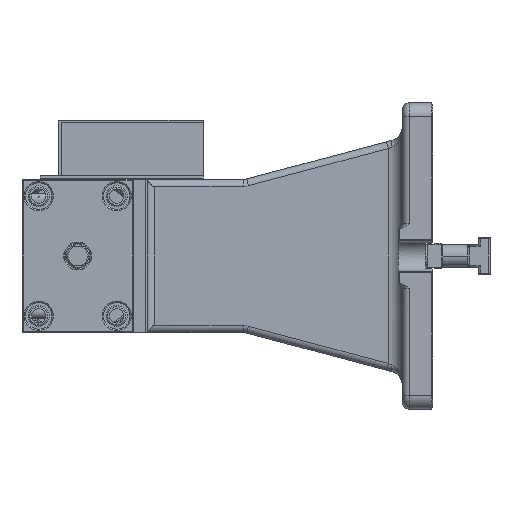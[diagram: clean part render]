
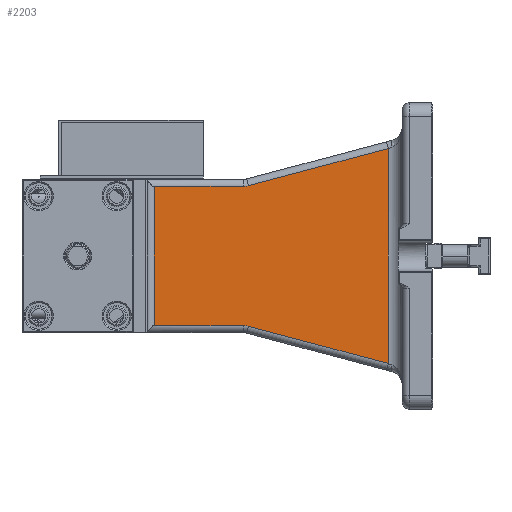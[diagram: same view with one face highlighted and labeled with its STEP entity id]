
A CAD part, left-side view. The second image highlights one B-rep face of the part: STEP entity #2203.
In plain terms, the highlighted planar face has unit normal (-1, 0, 0).
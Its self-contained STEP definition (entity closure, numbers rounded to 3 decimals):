
#36 = CIRCLE ( 'NONE', #11237, 15. ) ;
#174 = EDGE_CURVE ( 'NONE', #525, #3892, #3361, .T. ) ;
#310 = EDGE_CURVE ( 'NONE', #14118, #3107, #7535, .T. ) ;
#525 = VERTEX_POINT ( 'NONE', #10171 ) ;
#680 = VERTEX_POINT ( 'NONE', #9593 ) ;
#838 = DIRECTION ( 'NONE',  ( 0., 0.707, -0.707 ) ) ;
#1432 = DIRECTION ( 'NONE',  ( 1., 0., 0. ) ) ;
#1764 = CARTESIAN_POINT ( 'NONE',  ( 40., -55., -50. ) ) ;
#2004 = CARTESIAN_POINT ( 'NONE',  ( 40., -49., 50. ) ) ;
#2203 = ADVANCED_FACE ( 'NONE', ( #9124 ), #10260, .F. ) ;
#2260 = VECTOR ( 'NONE', #8328, 1000. ) ;
#2700 = CARTESIAN_POINT ( 'NONE',  ( 40., -224.283, -77.513 ) ) ;
#3107 = VERTEX_POINT ( 'NONE', #4653 ) ;
#3146 = ORIENTED_EDGE ( 'NONE', *, *, #11944, .T. ) ;
#3215 = VERTEX_POINT ( 'NONE', #11462 ) ;
#3256 = LINE ( 'NONE', #14517, #7256 ) ;
#3333 = DIRECTION ( 'NONE',  ( 0., -1., 0. ) ) ;
#3361 = LINE ( 'NONE', #7182, #2260 ) ;
#3402 = AXIS2_PLACEMENT_3D ( 'NONE', #4236, #6430, #11721 ) ;
#3541 = CARTESIAN_POINT ( 'NONE',  ( 40., -22., -82. ) ) ;
#3803 = CARTESIAN_POINT ( 'NONE',  ( 40., -14.971, 21.943 ) ) ;
#3892 = VERTEX_POINT ( 'NONE', #15532 ) ;
#4236 = CARTESIAN_POINT ( 'NONE',  ( 40., -50., -110. ) ) ;
#4653 = CARTESIAN_POINT ( 'NONE',  ( 40., -122.544, 50.502 ) ) ;
#4663 = ORIENTED_EDGE ( 'NONE', *, *, #310, .T. ) ;
#4668 = EDGE_CURVE ( 'NONE', #3107, #3215, #36, .T. ) ;
#4707 = DIRECTION ( 'NONE',  ( 0., 1., 0. ) ) ;
#4725 = ORIENTED_EDGE ( 'NONE', *, *, #4668, .T. ) ;
#4758 = VECTOR ( 'NONE', #838, 1000. ) ;
#4766 = VECTOR ( 'NONE', #7670, 1000. ) ;
#4963 = ORIENTED_EDGE ( 'NONE', *, *, #15854, .T. ) ;
#5035 = CARTESIAN_POINT ( 'NONE',  ( 40., -118.695, 65. ) ) ;
#5528 = VECTOR ( 'NONE', #11720, 1000. ) ;
#6430 = DIRECTION ( 'NONE',  ( 1., 0., 0. ) ) ;
#6850 = VERTEX_POINT ( 'NONE', #7107 ) ;
#7107 = CARTESIAN_POINT ( 'NONE',  ( 40., -223., -77.172 ) ) ;
#7148 = DIRECTION ( 'NONE',  ( 0., 1., 0. ) ) ;
#7182 = CARTESIAN_POINT ( 'NONE',  ( 40., -132., -28. ) ) ;
#7202 = CARTESIAN_POINT ( 'NONE',  ( 40., -223., 92.692 ) ) ;
#7235 = DIRECTION ( 'NONE',  ( 1., 0., 0. ) ) ;
#7256 = VECTOR ( 'NONE', #3333, 1000. ) ;
#7535 = LINE ( 'NONE', #3803, #13116 ) ;
#7670 = DIRECTION ( 'NONE',  ( 0., -0.967, -0.257 ) ) ;
#8328 = DIRECTION ( 'NONE',  ( 0., -0.707, -0.707 ) ) ;
#8343 = LINE ( 'NONE', #3541, #4758 ) ;
#8459 = CARTESIAN_POINT ( 'NONE',  ( 40., -118.695, -65. ) ) ;
#8537 = CARTESIAN_POINT ( 'NONE',  ( 40., -223., 77.172 ) ) ;
#8662 = VECTOR ( 'NONE', #12179, 1000. ) ;
#8785 = VERTEX_POINT ( 'NONE', #14589 ) ;
#8853 = ORIENTED_EDGE ( 'NONE', *, *, #15910, .T. ) ;
#8886 = EDGE_CURVE ( 'NONE', #3215, #525, #10818, .T. ) ;
#9030 = CARTESIAN_POINT ( 'NONE',  ( 40., -122.544, -50.502 ) ) ;
#9124 = FACE_OUTER_BOUND ( 'NONE', #13492, .T. ) ;
#9593 = CARTESIAN_POINT ( 'NONE',  ( 40., -54., -50. ) ) ;
#9760 = EDGE_CURVE ( 'NONE', #3892, #8785, #14187, .T. ) ;
#9876 = ORIENTED_EDGE ( 'NONE', *, *, #12047, .T. ) ;
#10171 = CARTESIAN_POINT ( 'NONE',  ( 40., -54., 50. ) ) ;
#10232 = CARTESIAN_POINT ( 'NONE',  ( 40., -118.695, -50. ) ) ;
#10260 = PLANE ( 'NONE',  #3402 ) ;
#10480 = EDGE_CURVE ( 'NONE', #11174, #6850, #13884, .T. ) ;
#10818 = LINE ( 'NONE', #2004, #15412 ) ;
#11127 = ORIENTED_EDGE ( 'NONE', *, *, #9760, .T. ) ;
#11174 = VERTEX_POINT ( 'NONE', #9030 ) ;
#11237 = AXIS2_PLACEMENT_3D ( 'NONE', #5035, #1432, #16130 ) ;
#11462 = CARTESIAN_POINT ( 'NONE',  ( 40., -118.695, 50. ) ) ;
#11720 = DIRECTION ( 'NONE',  ( 0., 0., -1. ) ) ;
#11721 = DIRECTION ( 'NONE',  ( 0., 1., 0. ) ) ;
#11935 = LINE ( 'NONE', #7202, #8662 ) ;
#11944 = EDGE_CURVE ( 'NONE', #15589, #11174, #12734, .T. ) ;
#12047 = EDGE_CURVE ( 'NONE', #680, #15589, #3256, .T. ) ;
#12179 = DIRECTION ( 'NONE',  ( 0., 0., 1. ) ) ;
#12734 = CIRCLE ( 'NONE', #14828, 15. ) ;
#12805 = ORIENTED_EDGE ( 'NONE', *, *, #10480, .T. ) ;
#13116 = VECTOR ( 'NONE', #13423, 1000. ) ;
#13423 = DIRECTION ( 'NONE',  ( 0., 0.967, -0.257 ) ) ;
#13492 = EDGE_LOOP ( 'NONE', ( #13892, #15696, #11127, #8853, #9876, #3146, #12805, #4963, #4663, #4725 ) ) ;
#13884 = LINE ( 'NONE', #2700, #4766 ) ;
#13892 = ORIENTED_EDGE ( 'NONE', *, *, #8886, .T. ) ;
#14118 = VERTEX_POINT ( 'NONE', #8537 ) ;
#14187 = LINE ( 'NONE', #1764, #5528 ) ;
#14517 = CARTESIAN_POINT ( 'NONE',  ( 40., -50., -50. ) ) ;
#14589 = CARTESIAN_POINT ( 'NONE',  ( 40., -55., -49. ) ) ;
#14828 = AXIS2_PLACEMENT_3D ( 'NONE', #8459, #7235, #7148 ) ;
#15412 = VECTOR ( 'NONE', #4707, 1000. ) ;
#15532 = CARTESIAN_POINT ( 'NONE',  ( 40., -55., 49. ) ) ;
#15589 = VERTEX_POINT ( 'NONE', #10232 ) ;
#15696 = ORIENTED_EDGE ( 'NONE', *, *, #174, .T. ) ;
#15854 = EDGE_CURVE ( 'NONE', #6850, #14118, #11935, .T. ) ;
#15910 = EDGE_CURVE ( 'NONE', #8785, #680, #8343, .T. ) ;
#16130 = DIRECTION ( 'NONE',  ( 0., 1., 0. ) ) ;
